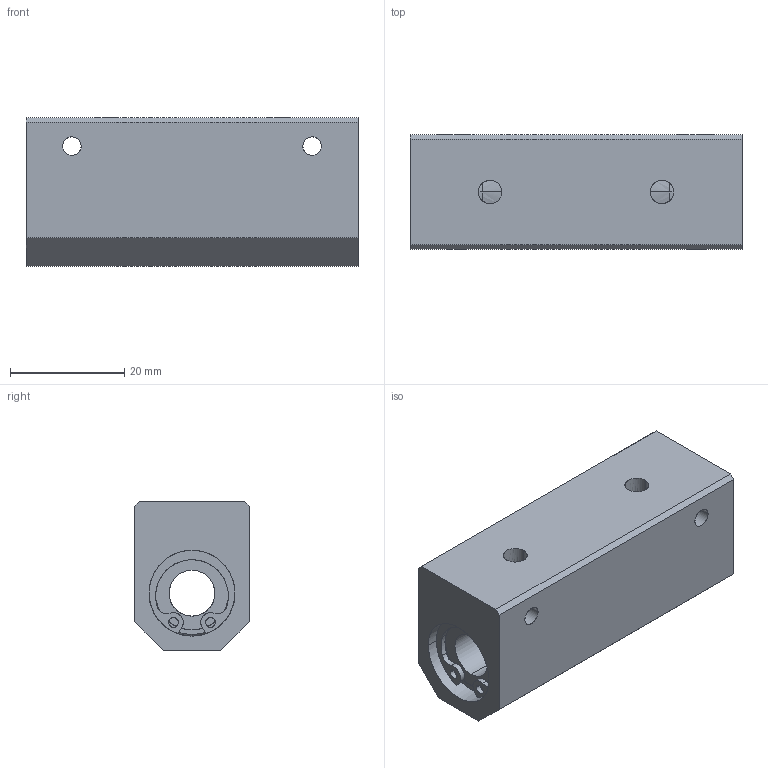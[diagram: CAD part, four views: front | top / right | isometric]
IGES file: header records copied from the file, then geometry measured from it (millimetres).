
Global section: file name: No Iges File Name specified; native system: AutoDesk Inventor R10; preprocessor: AutoDesk Inventor Iges Exporter R10; author: No Author specified; organization: No Organization specified; date: 20101216.152131; units: millimetre
Bounding box: 58 x 20 x 26 mm (x, y, z)
Surface area: 8592.5 mm2 (no closed solid volume)
Topology: 0 solids, 0 shells, 102 faces, 810 edges, 810 vertices
Faces by surface type: bspline 102
